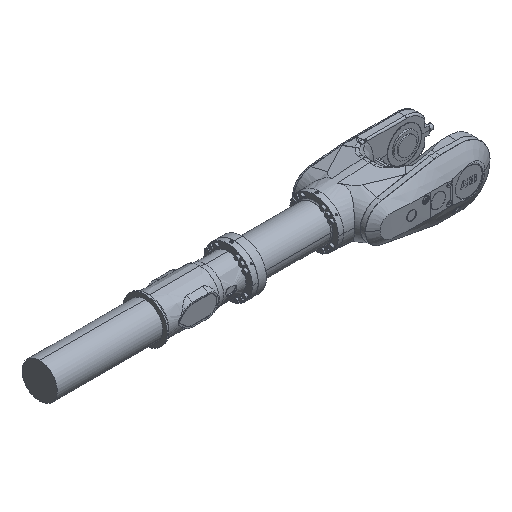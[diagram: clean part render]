
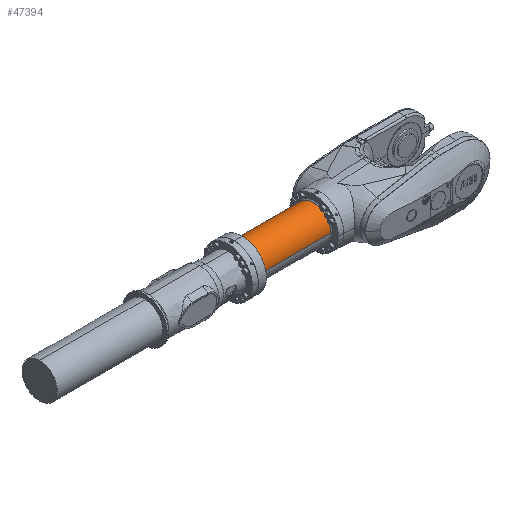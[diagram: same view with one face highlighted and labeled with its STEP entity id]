
A CAD part, isometric view. The second image highlights one B-rep face of the part: STEP entity #47394.
In plain terms, the highlighted free-form (B-spline) face has degree [1, 3] with [2, 7] control points.
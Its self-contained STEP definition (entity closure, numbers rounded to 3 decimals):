
#53 = VERTEX_POINT ( 'NONE', #24481 ) ;
#1217 = B_SPLINE_CURVE_WITH_KNOTS ( 'NONE', 1,
 ( #32028, #8462 ),
 .UNSPECIFIED., .F., .F.,
 ( 2, 2 ),
 ( 0., 1. ),
 .UNSPECIFIED. ) ;
#1805 = CARTESIAN_POINT ( 'NONE',  ( 1024.151, -85., 2309.792 ) ) ;
#2564 = CARTESIAN_POINT ( 'NONE',  ( 1364.313, 85., 2260. ) ) ;
#2971 = CARTESIAN_POINT ( 'NONE',  ( 1364.313, 49.792, 2345. ) ) ;
#4930 =( BOUNDED_CURVE ( )  B_SPLINE_CURVE ( 3, ( #33013, #5492, #1805, #17045 ),
 .UNSPECIFIED., .F., .T. ) 
 B_SPLINE_CURVE_WITH_KNOTS ( ( 4, 4 ),
 ( 0., 1. ),
 .UNSPECIFIED. ) 
 CURVE ( )  GEOMETRIC_REPRESENTATION_ITEM ( )  RATIONAL_B_SPLINE_CURVE ( ( 1., 0.805, 0.805, 1. ) ) 
 REPRESENTATION_ITEM ( '' )  );
#5492 = CARTESIAN_POINT ( 'NONE',  ( 1024.151, -49.792, 2345. ) ) ;
#6142 = CARTESIAN_POINT ( 'NONE',  ( 1364.313, -85., 2309.792 ) ) ;
#6789 = CARTESIAN_POINT ( 'NONE',  ( 1024.151, 85., 2260. ) ) ;
#8462 = CARTESIAN_POINT ( 'NONE',  ( 1024.151, -85., 2260. ) ) ;
#8931 = CARTESIAN_POINT ( 'NONE',  ( 1024.151, 49.792, 2345. ) ) ;
#8938 = CARTESIAN_POINT ( 'NONE',  ( 1024.151, -85., 2260. ) ) ;
#10278 = VERTEX_POINT ( 'NONE', #27977 ) ;
#10345 = CARTESIAN_POINT ( 'NONE',  ( 1364.313, 0., 2345. ) ) ;
#10443 = CARTESIAN_POINT ( 'NONE',  ( 1364.313, -49.792, 2345. ) ) ;
#10736 = EDGE_CURVE ( 'NONE', #53, #24922, #48841, .T. ) ;
#10913 = EDGE_LOOP ( 'NONE', ( #30950, #23909, #30200, #15118, #41273 ) ) ;
#11330 = EDGE_CURVE ( 'NONE', #17596, #10278, #19790, .T. ) ;
#15118 = ORIENTED_EDGE ( 'NONE', *, *, #24963, .T. ) ;
#17045 = CARTESIAN_POINT ( 'NONE',  ( 1024.151, -85., 2260. ) ) ;
#17547 = CARTESIAN_POINT ( 'NONE',  ( 1364.313, -85., 2260. ) ) ;
#17596 = VERTEX_POINT ( 'NONE', #6789 ) ;
#18036 = CARTESIAN_POINT ( 'NONE',  ( 1364.313, 85., 2309.792 ) ) ;
#18564 = CARTESIAN_POINT ( 'NONE',  ( 1364.313, 0., 2345. ) ) ;
#19790 =( BOUNDED_CURVE ( )  B_SPLINE_CURVE ( 3, ( #48722, #44800, #8931, #32241 ),
 .UNSPECIFIED., .F., .T. ) 
 B_SPLINE_CURVE_WITH_KNOTS ( ( 4, 4 ),
 ( 0., 1. ),
 .UNSPECIFIED. ) 
 CURVE ( )  GEOMETRIC_REPRESENTATION_ITEM ( )  RATIONAL_B_SPLINE_CURVE ( ( 1., 0.805, 0.805, 1. ) ) 
 REPRESENTATION_ITEM ( '' )  );
#20718 = CARTESIAN_POINT ( 'NONE',  ( 1364.313, 85., 2260. ) ) ;
#21945 = CARTESIAN_POINT ( 'NONE',  ( 1024.151, 49.792, 2345. ) ) ;
#22455 = CARTESIAN_POINT ( 'NONE',  ( 1024.151, -85., 2260. ) ) ;
#22974 = CARTESIAN_POINT ( 'NONE',  ( 1024.151, 85., 2309.792 ) ) ;
#23909 = ORIENTED_EDGE ( 'NONE', *, *, #48811, .F. ) ;
#24481 = CARTESIAN_POINT ( 'NONE',  ( 1364.313, 85., 2260. ) ) ;
#24922 = VERTEX_POINT ( 'NONE', #17547 ) ;
#24963 = EDGE_CURVE ( 'NONE', #10278, #28164, #4930, .T. ) ;
#26810 = CARTESIAN_POINT ( 'NONE',  ( 1364.313, -85., 2260. ) ) ;
#27396 =( BOUNDED_SURFACE ( )  B_SPLINE_SURFACE ( 1, 3, ( 
 ( #38191, #22974, #21945, #43165, #46321, #37928, #22455 ),
 ( #2564, #18036, #38971, #18564, #10443, #49971, #50496 ) ),
 .UNSPECIFIED., .F., .F., .F. ) 
 B_SPLINE_SURFACE_WITH_KNOTS ( ( 2, 2 ),
 ( 4, 3, 4 ),
 ( 0., 1. ),
 ( 0., 0.5, 1. ),
 .UNSPECIFIED. ) 
 GEOMETRIC_REPRESENTATION_ITEM ( )  RATIONAL_B_SPLINE_SURFACE ( (
 ( 1., 0.805, 0.805, 1., 0.805, 0.805, 1.),
 ( 1., 0.805, 0.805, 1., 0.805, 0.805, 1.) ) ) 
 REPRESENTATION_ITEM ( '' )  SURFACE ( )  );
#27977 = CARTESIAN_POINT ( 'NONE',  ( 1024.151, 0., 2345. ) ) ;
#28164 = VERTEX_POINT ( 'NONE', #8938 ) ;
#30200 = ORIENTED_EDGE ( 'NONE', *, *, #11330, .T. ) ;
#30219 = CARTESIAN_POINT ( 'NONE',  ( 1364.313, 85., 2309.792 ) ) ;
#30950 = ORIENTED_EDGE ( 'NONE', *, *, #10736, .F. ) ;
#32028 = CARTESIAN_POINT ( 'NONE',  ( 1364.313, -85., 2260. ) ) ;
#32241 = CARTESIAN_POINT ( 'NONE',  ( 1024.151, 0., 2345. ) ) ;
#33013 = CARTESIAN_POINT ( 'NONE',  ( 1024.151, 0., 2345. ) ) ;
#34541 = FACE_OUTER_BOUND ( 'NONE', #10913, .T. ) ;
#36693 = CARTESIAN_POINT ( 'NONE',  ( 1024.151, 85., 2260. ) ) ;
#37928 = CARTESIAN_POINT ( 'NONE',  ( 1024.151, -85., 2309.792 ) ) ;
#38191 = CARTESIAN_POINT ( 'NONE',  ( 1024.151, 85., 2260. ) ) ;
#38971 = CARTESIAN_POINT ( 'NONE',  ( 1364.313, 49.792, 2345. ) ) ;
#41273 = ORIENTED_EDGE ( 'NONE', *, *, #44721, .F. ) ;
#42008 = CARTESIAN_POINT ( 'NONE',  ( 1364.313, -49.792, 2345. ) ) ;
#43165 = CARTESIAN_POINT ( 'NONE',  ( 1024.151, 0., 2345. ) ) ;
#44721 = EDGE_CURVE ( 'NONE', #24922, #28164, #1217, .T. ) ;
#44800 = CARTESIAN_POINT ( 'NONE',  ( 1024.151, 85., 2309.792 ) ) ;
#46321 = CARTESIAN_POINT ( 'NONE',  ( 1024.151, -49.792, 2345. ) ) ;
#47201 = B_SPLINE_CURVE_WITH_KNOTS ( 'NONE', 1,
 ( #36693, #20718 ),
 .UNSPECIFIED., .F., .F.,
 ( 2, 2 ),
 ( 0., 1. ),
 .UNSPECIFIED. ) ;
#47394 = ADVANCED_FACE ( 'NONE', ( #34541 ), #27396, .F. ) ;
#48722 = CARTESIAN_POINT ( 'NONE',  ( 1024.151, 85., 2260. ) ) ;
#48811 = EDGE_CURVE ( 'NONE', #17596, #53, #47201, .T. ) ;
#48841 =( BOUNDED_CURVE ( )  B_SPLINE_CURVE ( 3, ( #50906, #30219, #2971, #10345, #42008, #6142, #26810 ),
 .UNSPECIFIED., .F., .T. ) 
 B_SPLINE_CURVE_WITH_KNOTS ( ( 4, 3, 4 ),
 ( 0., 0.5, 1. ),
 .UNSPECIFIED. ) 
 CURVE ( )  GEOMETRIC_REPRESENTATION_ITEM ( )  RATIONAL_B_SPLINE_CURVE ( ( 1., 0.805, 0.805, 1., 0.805, 0.805, 1. ) ) 
 REPRESENTATION_ITEM ( '' )  );
#49971 = CARTESIAN_POINT ( 'NONE',  ( 1364.313, -85., 2309.792 ) ) ;
#50496 = CARTESIAN_POINT ( 'NONE',  ( 1364.313, -85., 2260. ) ) ;
#50906 = CARTESIAN_POINT ( 'NONE',  ( 1364.313, 85., 2260. ) ) ;
